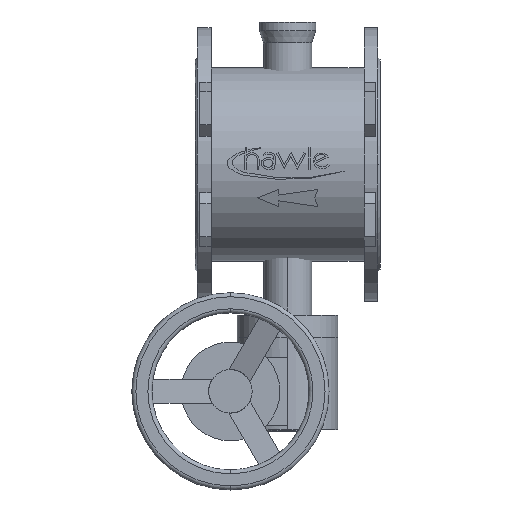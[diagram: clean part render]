
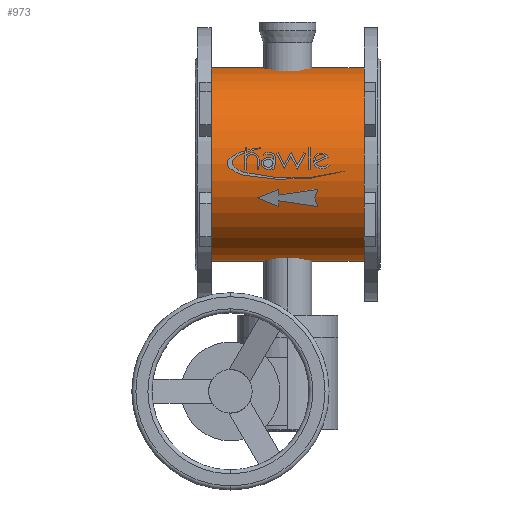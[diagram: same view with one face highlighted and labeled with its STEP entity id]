
A CAD part, top view. The second image highlights one B-rep face of the part: STEP entity #973.
In plain terms, the highlighted cylindrical face has radius 120 mm (diameter 240 mm), a partial arc.
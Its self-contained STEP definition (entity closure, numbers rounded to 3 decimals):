
#973=ADVANCED_FACE('',(#2064),#2065,.T.);
#2064=FACE_OUTER_BOUND('',#3631,.T.);
#2065=CYLINDRICAL_SURFACE('',#3632,120.0);
#3631=EDGE_LOOP('',(#5236,#5237,#5238,#5239));
#3632=AXIS2_PLACEMENT_3D('',#5240,#5241,#5242);
#5236=ORIENTED_EDGE('',*,*,#8432,.T.);
#5237=ORIENTED_EDGE('',*,*,#8207,.T.);
#5238=ORIENTED_EDGE('',*,*,#8433,.T.);
#5239=ORIENTED_EDGE('',*,*,#8347,.T.);
#5240=CARTESIAN_POINT('',(-210.0,0.,0.0));
#5241=DIRECTION('',(1.0,0.,0.0));
#5242=DIRECTION('',(0.,-1.0,0.0));
#8207=EDGE_CURVE('',#9594,#9595,#9596,.T.);
#8347=EDGE_CURVE('',#9844,#9843,#9846,.T.);
#8432=EDGE_CURVE('',#9843,#9594,#9985,.T.);
#8433=EDGE_CURVE('',#9595,#9844,#9986,.T.);
#9594=VERTEX_POINT('',#11546);
#9595=VERTEX_POINT('',#11547);
#9596=CIRCLE('',#11548,120.0);
#9843=VERTEX_POINT('',#11849);
#9844=VERTEX_POINT('',#11850);
#9846=CIRCLE('',#11852,120.0);
#9985=LINE('',#12032,#12033);
#9986=LINE('',#12034,#12035);
#11546=CARTESIAN_POINT('',(-20.0,-120.0,0.0));
#11547=CARTESIAN_POINT('',(-20.0,120.0,0.));
#11548=AXIS2_PLACEMENT_3D('',#13973,#13974,#13975);
#11849=CARTESIAN_POINT('',(-210.0,-120.0,0.0));
#11850=CARTESIAN_POINT('',(-210.0,120.0,0.));
#11852=AXIS2_PLACEMENT_3D('',#14222,#14223,#14224);
#12032=CARTESIAN_POINT('',(-210.0,-120.0,0.));
#12033=VECTOR('',#14329,1.0);
#12034=CARTESIAN_POINT('',(-210.0,120.0,0.));
#12035=VECTOR('',#14330,1.0);
#13973=CARTESIAN_POINT('',(-20.0,0.,0.0));
#13974=DIRECTION('',(-1.0,0.,0.0));
#13975=DIRECTION('',(0.,-1.0,0.0));
#14222=CARTESIAN_POINT('',(-210.0,0.,0.0));
#14223=DIRECTION('',(1.0,0.,0.0));
#14224=DIRECTION('',(0.,-1.0,0.0));
#14329=DIRECTION('',(1.0,0.,0.0));
#14330=DIRECTION('',(-1.0,0.,-0.0));
